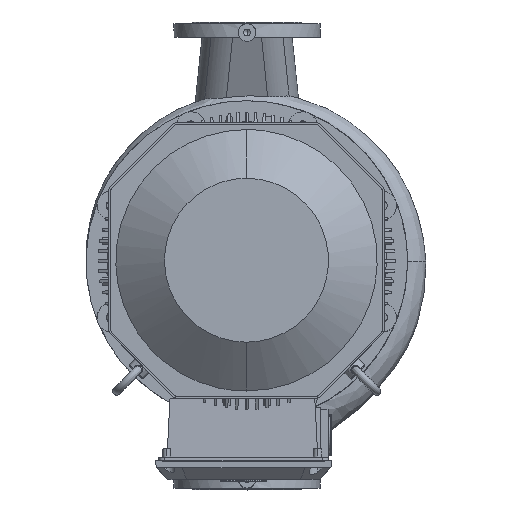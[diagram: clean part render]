
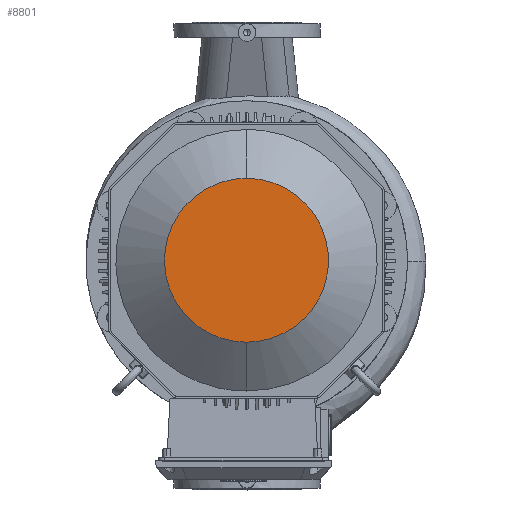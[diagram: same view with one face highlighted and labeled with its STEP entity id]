
A CAD part, top view. The second image highlights one B-rep face of the part: STEP entity #8801.
In plain terms, the highlighted free-form (B-spline) face has degree [1, 1] with [2, 2] control points.
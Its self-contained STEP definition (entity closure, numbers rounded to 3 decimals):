
#8801=ADVANCED_FACE('      F2',(#22598),#22599,.T.);
#8883=EDGE_CURVE('      E3',#22724,#22725,#22726,.T.);
#8887=EDGE_CURVE('      E3',#22725,#22724,#22730,.T.);
#22598=FACE_OUTER_BOUND('',#46006,.T.);
#22599=B_SPLINE_SURFACE_WITH_KNOTS('',1,1,((#46007,#46008),(#46009,#46010)),.UNSPECIFIED.,.F.,.F.,.F.,(2,2),(2,2),(0.044,0.955),(0.039,0.96),.UNSPECIFIED.);
#22724=VERTEX_POINT('',#46451);
#22725=VERTEX_POINT('',#46452);
#22726=(B_SPLINE_CURVE(2,(#46454,#46455,#46456,#46457,#46458),.UNSPECIFIED.,.F.,.F.)B_SPLINE_CURVE_WITH_KNOTS((3,2,3),(80.914,107.885,161.828),.UNSPECIFIED.)RATIONAL_B_SPLINE_CURVE((0.75,0.75,1.0,0.5,1.0))BOUNDED_CURVE()REPRESENTATION_ITEM('')GEOMETRIC_REPRESENTATION_ITEM()CURVE());
#22730=(B_SPLINE_CURVE(2,(#46472,#46473,#46474,#46475,#46476),.UNSPECIFIED.,.F.,.F.)B_SPLINE_CURVE_WITH_KNOTS((3,2,3),(0.0,53.943,80.914),.UNSPECIFIED.)RATIONAL_B_SPLINE_CURVE((1.0,0.5,1.0,0.75,0.75))BOUNDED_CURVE()REPRESENTATION_ITEM('')GEOMETRIC_REPRESENTATION_ITEM()CURVE());
#46006=EDGE_LOOP('',(#97690,#97691));
#46007=CARTESIAN_POINT('',(-63.355,165.897,-188.0));
#46008=CARTESIAN_POINT('',(-344.576,165.897,-188.0));
#46009=CARTESIAN_POINT('',(-63.355,-114.887,-188.0));
#46010=CARTESIAN_POINT('',(-344.576,-114.887,-188.0));
#46451=CARTESIAN_POINT('',(-204.061,165.425,-188.0));
#46452=CARTESIAN_POINT('',(-204.061,-114.868,-188.0));
#46454=CARTESIAN_POINT('',(-204.061,165.425,-188.0));
#46455=CARTESIAN_POINT('',(-284.975,165.425,-188.0));
#46456=CARTESIAN_POINT('',(-325.432,95.352,-188.0));
#46457=CARTESIAN_POINT('',(-446.802,-114.868,-188.0));
#46458=CARTESIAN_POINT('',(-204.061,-114.868,-188.0));
#46472=CARTESIAN_POINT('',(-204.061,-114.868,-188.0));
#46473=CARTESIAN_POINT('',(38.68,-114.868,-188.0));
#46474=CARTESIAN_POINT('',(-82.69,95.352,-188.0));
#46475=CARTESIAN_POINT('',(-123.147,165.425,-188.0));
#46476=CARTESIAN_POINT('',(-204.061,165.425,-188.0));
#97690=ORIENTED_EDGE('',*,*,#8887,.F.);
#97691=ORIENTED_EDGE('',*,*,#8883,.F.);
